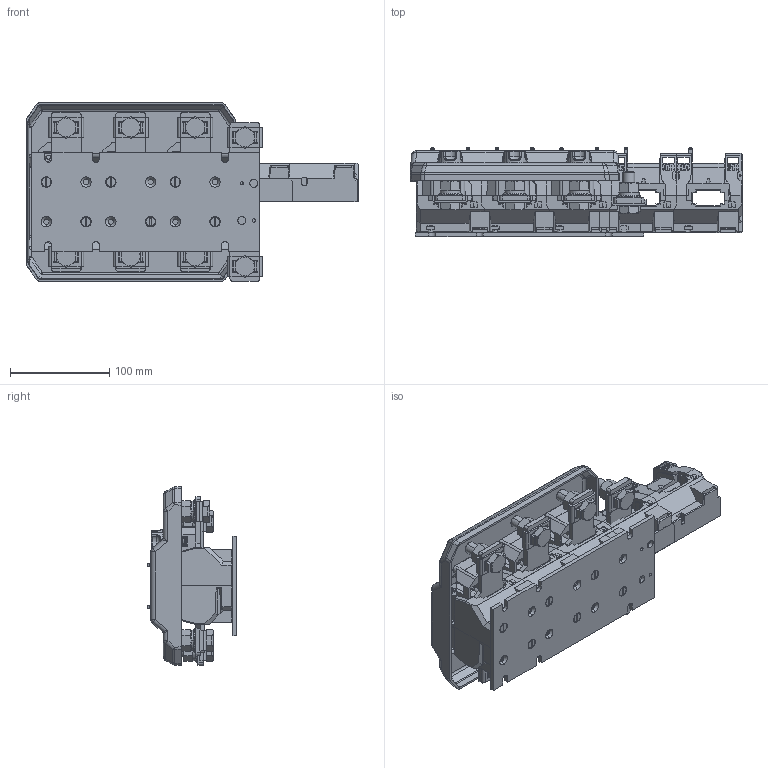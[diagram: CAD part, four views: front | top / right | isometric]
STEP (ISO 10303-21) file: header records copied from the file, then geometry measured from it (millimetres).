
FILE_DESCRIPTION (( 'STEP AP214' ), '1' );
FILE_NAME ('WSKD31.8_kpl.STEP', '2011-11-18T11:36:11', ( ' ' ), ( '' ), 'SwSTEP 2.0', 'SolidWorks 2010', '' );
FILE_SCHEMA (( 'AUTOMOTIVE_DESIGN' ));
Length unit declared in the file: millimetre
Products named in the file (27): Scheibe DIN 125 ST 5,3; Sechskantmutter DIN 934 8 M 12; Sekundärklemme_20_EWSKD31.5-10_WN-003_02; Zwischenstück_MBS.WN-001.01; Sekundärklemme_20_EWSKD31.5-10_komplett.SLDPRT; Sekundärklemme_43_EWSKD31.5-11_WN-003_02; Sekundärklemme_43_EWSKD31.5-11_komplett.SLDPRT; Sechskantschraube DIN 933 M12x35; Verdrehsicherung; Spannscheibe_DIN128-12; Brille; Scheibe DIN 125 A 13; Stromschiene_Aussen_WSKD31.8; Linsenkopfschraube_Schlitz_DIN404_M4x8_ISO 1580 - M4 x 8 --- 8N; Linsenschraube DIN 7985 4.8 VZ M 5 x 10; Sockel_WSKD31.8; Vierkantmutter_M5_DIN562_Square nut DIN 562 M5 -N; Abdeckung_WSKD31.8; Primärspule_Dummy; Keramik_Sicherungshalter; Stromschiene_WSKD31.8; Senkschraube_DIN963-M5x8_ISO 2009 - M5 x 8 --- 8N; Grundplatte_WSKD31.8; WSKD31.8_kpl; Halteblech_Brille; Abdeckung_transparent_WSKD31.8; Geh酳seh鄟fte_WSKD31.8
Assembly tree (94 placements, depth 3):
  WSKD31.8_kpl
    Sechskantmutter DIN 934 8 M 12  x8
    Sekundärklemme_20_EWSKD31.5-10_komplett.SLDPRT  x3
      Linsenschraube DIN 7985 4.8 VZ M 5 x 10
      Sekundärklemme_20_EWSKD31.5-10_WN-003_02
      Zwischenstück_MBS.WN-001.01
      Scheibe DIN 125 ST 5,3
    Abdeckung_transparent_WSKD31.8
    Keramik_Sicherungshalter  x3
    Scheibe DIN 125 A 13  x8
    Sechskantschraube DIN 933 M12x35  x8
    Linsenkopfschraube_Schlitz_DIN404_M4x8_ISO 1580 - M4 x 8 --- 8N  x2
    Stromschiene_WSKD31.8  x3
    Senkschraube_DIN963-M5x8_ISO 2009 - M5 x 8 --- 8N  x6
    Spannscheibe_DIN128-12  x8
    Geh酳seh鄟fte_WSKD31.8  x2
    Vierkantmutter_M5_DIN562_Square nut DIN 562 M5 -N  x6
    Verdrehsicherung  x8
    Halteblech_Brille  x2
    Brille  x2
    Abdeckung_WSKD31.8  x3
    Grundplatte_WSKD31.8
    Primärspule_Dummy  x3
    Sekundärklemme_43_EWSKD31.5-11_komplett.SLDPRT  x3
      Sekundärklemme_43_EWSKD31.5-11_WN-003_02
      Linsenschraube DIN 7985 4.8 VZ M 5 x 10
      Scheibe DIN 125 ST 5,3
    Stromschiene_Aussen_WSKD31.8
    Sockel_WSKD31.8
Bounding box: 334.5 x 90 x 180 mm (x, y, z)
Volume: 2396242.8 mm3; surface area: 660396.5 mm2
Topology: 118 solids, 118 shells, 6859 faces, 18069 edges, 11515 vertices
Faces by surface type: plane 4424, cylinder 1472, bspline 449, cone 300, torus 138, sphere 76
Entity records: 84886 total; most frequent: CARTESIAN_POINT 23848, ORIENTED_EDGE 12898, DIRECTION 11275, EDGE_CURVE 6449, LINE 4691, VECTOR 4691, VERTEX_POINT 4155, AXIS2_PLACEMENT_3D 3292
